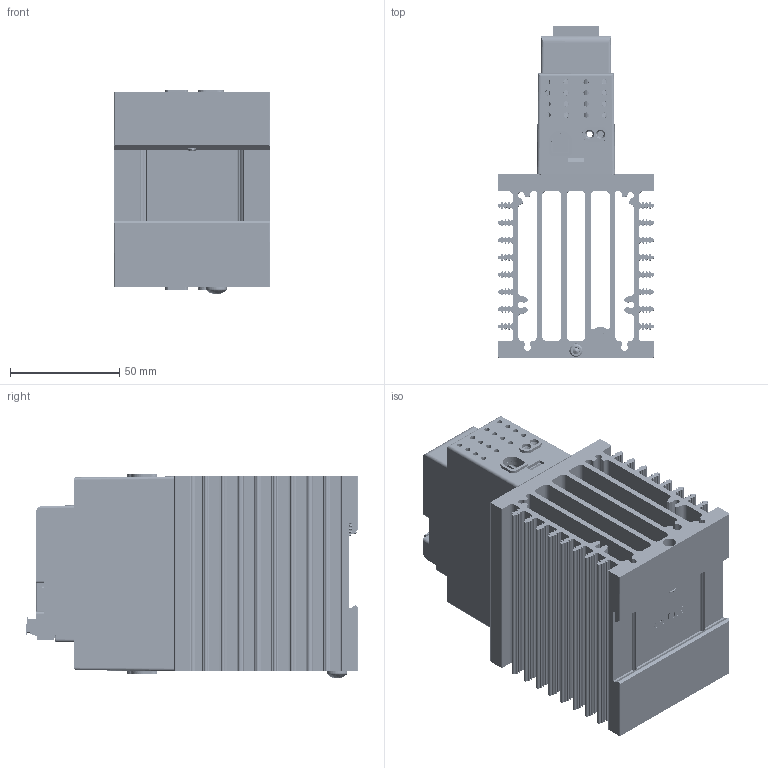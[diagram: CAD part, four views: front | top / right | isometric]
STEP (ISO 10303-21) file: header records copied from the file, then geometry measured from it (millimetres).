
FILE_DESCRIPTION(/* description */ (''),/* implementation_level */ '2;1');
FILE_NAME(/* name */ '1-phase EtherCAT 50A.stp',/* time_stamp */ '2024-11-12T08:50:47-06:00',/* author */ ('ErikG'),/* organization */ (''),/* preprocessor_version */ 'ST-DEVELOPER v20',/* originating_system */ 'Autodesk Inventor 2025',/* authorisation */ '');
FILE_SCHEMA (('AUTOMOTIVE_DESIGN { 1 0 10303 214 3 1 1 }'));
Products named in the file (30): 3001631e; 3001761; 1001600G; P11; P6; fci 6 pin header OQ06120000J0G; fci 6 pin headerOQ06120000J0G half 1; fci 5 pin header OQ05120000J0G half 2; fci 6 pin connector TS06110B00J0G; fci 5 pin connector TS05110B00J0G LEFT HALF; fci 5 pin connector TS05110B00J0G RIGHT HALF; P3; usb-c31-s-vt-cs4-bk-pp-t-r-model ADAMTECH; P5; 74990101210 (rev1); base; shielding; top board erase; SW3; SW2; SH-7070TA; _SH-7070A_body; _SH-700-Without knob (Minus slot); 3001763; 3001755; 3001756; 3001747; 0060702-1032-0375; 0060783-0610-010.ipt; spring
Assembly tree (33 placements, depth 6):
  3001631e
    3001761  x3
    1001600G
      P11
        74990101210 (rev1)
          base
          shielding
      P6
        fci 6 pin header OQ06120000J0G
          fci 6 pin headerOQ06120000J0G half 1
          fci 5 pin header OQ05120000J0G half 2
          fci 6 pin connector TS06110B00J0G
            fci 5 pin connector TS05110B00J0G LEFT HALF
            fci 5 pin connector TS05110B00J0G RIGHT HALF
      P3
        usb-c31-s-vt-cs4-bk-pp-t-r-model ADAMTECH
      P5
        74990101210 (rev1)
          base
          shielding
      top board erase
        SW3
          SH-7070TA
            _SH-7070A_body
            _SH-700-Without knob (Minus slot)
        SW2
          SH-7070TA
            _SH-7070A_body
            _SH-700-Without knob (Minus slot)
    3001763
    3001755
    3001756
    3001747
    0060702-1032-0375
    0060783-0610-010.ipt
    spring
Bounding box: 71.12 x 151.58 x 93.49 mm (x, y, z)
Volume: 264316.4 mm3; surface area: 218224.3 mm2
Topology: 24 solids, 114 shells, 9319 faces, 26013 edges, 17069 vertices
Faces by surface type: plane 7270, cylinder 1605, cone 201, bspline 155, torus 69, sphere 19
Full cylindrical faces by diameter (mm): 0.254 x1, 0.45 x2, 0.55 x2, 0.65 x2, 1 x2, 1.2 x2, 2.3 x12, 2.642 x3, 2.95 x6, 3.277 x2, 3.28 x2, 3.3 x2, 3.4 x2, 3.42 x2, 4 x2, 4.826 x1, 4.917 x1, 6 x1, 6.172 x1, 9.474 x1
Entity records: 244452 total; most frequent: CARTESIAN_POINT 57753, ORIENTED_EDGE 39520, DIRECTION 36462, EDGE_CURVE 19760, LINE 15718, VECTOR 15718, VERTEX_POINT 12975, AXIS2_PLACEMENT_3D 10372
